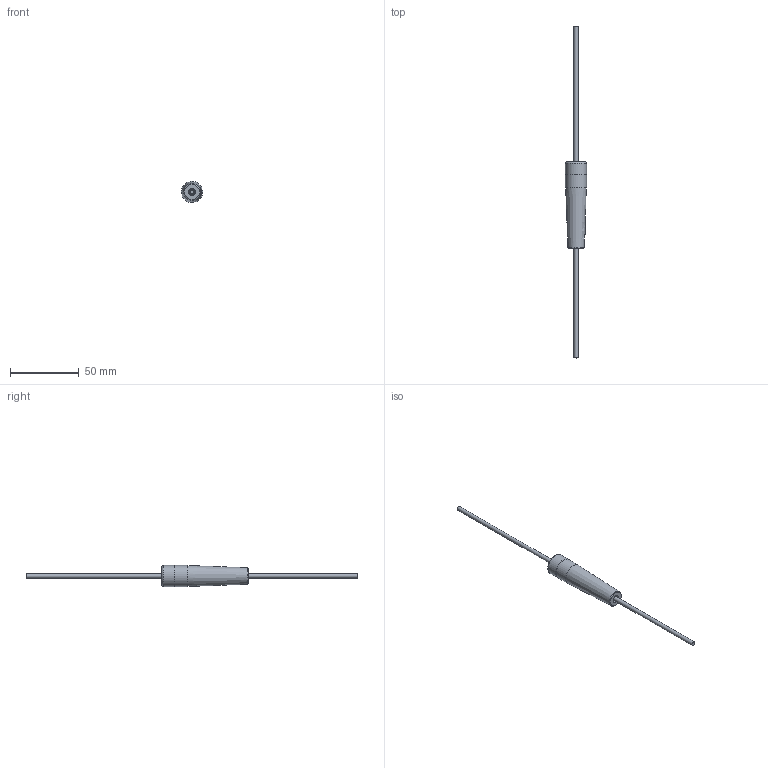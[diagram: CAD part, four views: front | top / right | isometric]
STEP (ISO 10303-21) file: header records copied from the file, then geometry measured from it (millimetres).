
FILE_DESCRIPTION(/* description */ (''),/* implementation_level */ '2;1');
FILE_NAME(/* name */ 'C:\Users\Hani\Desktop\work\LPA-07\LPA-07.stp',/* time_stamp */ '2021-07-23T14:55:12-07:00',/* author */ ('Hani'),/* organization */ (''),/* preprocessor_version */ 'ST-DEVELOPER v17',/* originating_system */ 'Autodesk Inventor 2019',/* authorisation */ '');
FILE_SCHEMA (('AUTOMOTIVE_DESIGN { 1 0 10303 214 3 1 1 }'));
Length unit declared in the file: inch
Products named in the file (5): LPA-07; LPA-07_1; LPA-07-Top; Spring2; wire
Assembly tree (5 placements, depth 2):
  LPA-07
    LPA-07_1
    LPA-07-Top
    Spring2
    wire  x2
Bounding box: 15.49 x 242.06 x 15.49 mm (x, y, z)
Volume: 8884 mm3; surface area: 7333.1 mm2
Topology: 5 solids, 5 shells, 173 faces, 445 edges, 297 vertices
Faces by surface type: bspline 73, plane 72, cone 18, cylinder 8, torus 2
Full cylindrical faces by diameter (mm): 2.997 x2, 5.588 x2, 9.398 x2, 15.494 x2
Entity records: 9862 total; most frequent: CARTESIAN_POINT 5864, ORIENTED_EDGE 884, DIRECTION 619, EDGE_CURVE 442, VERTEX_POINT 295, AXIS2_PLACEMENT_3D 214, LINE 191, VECTOR 191
